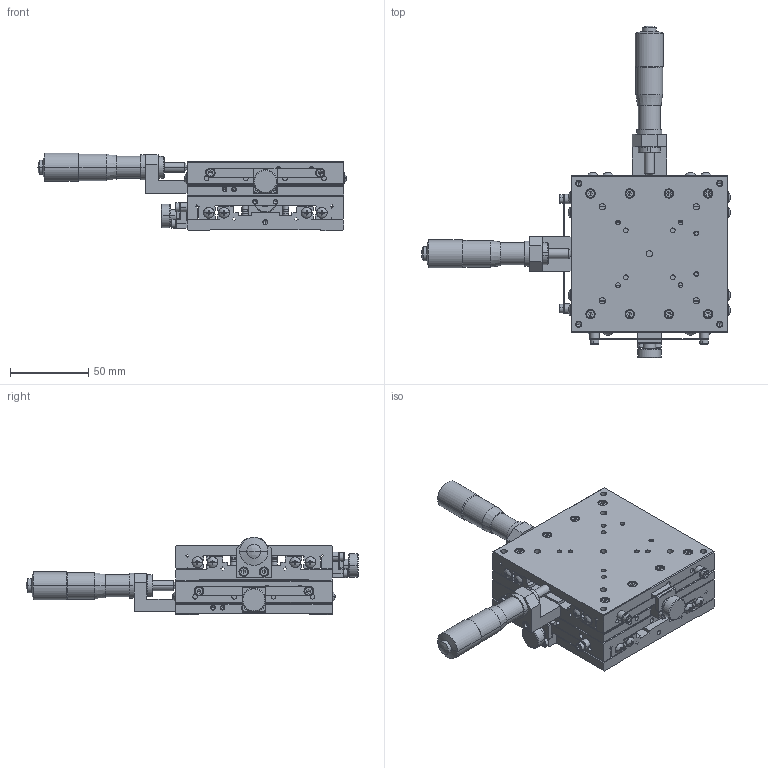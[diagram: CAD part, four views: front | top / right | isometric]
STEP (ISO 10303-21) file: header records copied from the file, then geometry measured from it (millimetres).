
FILE_DESCRIPTION (( 'STEP AP214' ), '1' );
FILE_NAME ('YM10F-C1.STEP', '2009-05-11T08:16:38', ( ' ' ), ( ' ' ), 'SwSTEP 2.0', 'SolidWorks 2008', '' );
FILE_SCHEMA (( 'AUTOMOTIVE_DESIGN' ));
Length unit declared in the file: millimetre
Products named in the file (10): 001190-1011(3D)-1; XM10F-C1(PL)-1; 001190-1011(3D)-Part-1-1; 001190-1011(3D)-Part-2-1; 001190-1011(3D); XM10F-C1(PL); YM10F-C1; 001190-1023(3D)-1; 001190-1011(3D)-Part-2; 001190-1011(3D)-Part-1
Assembly tree (9 placements, depth 4):
  YM10F-C1
    XM10F-C1(PL)-1
      001190-1011(3D)-1
        001190-1011(3D)-Part-1-1
        001190-1011(3D)-Part-2-1
    XM10F-C1(PL)
      001190-1023(3D)-1
      001190-1011(3D)
        001190-1011(3D)-Part-1
        001190-1011(3D)-Part-2
Bounding box: 197.37 x 212 x 49.5 mm (x, y, z)
Volume: 412657.7 mm3; surface area: 165446.7 mm2
Topology: 5 solids, 105 shells, 3548 faces, 8410 edges, 5036 vertices
Faces by surface type: plane 1612, cylinder 1102, cone 762, sphere 40, torus 32
Entity records: 101065 total; most frequent: DIRECTION 18582, CARTESIAN_POINT 17840, ORIENTED_EDGE 16372, EDGE_CURVE 8186, AXIS2_PLACEMENT_3D 7126, VERTEX_POINT 5036, LINE 4330, VECTOR 4330
